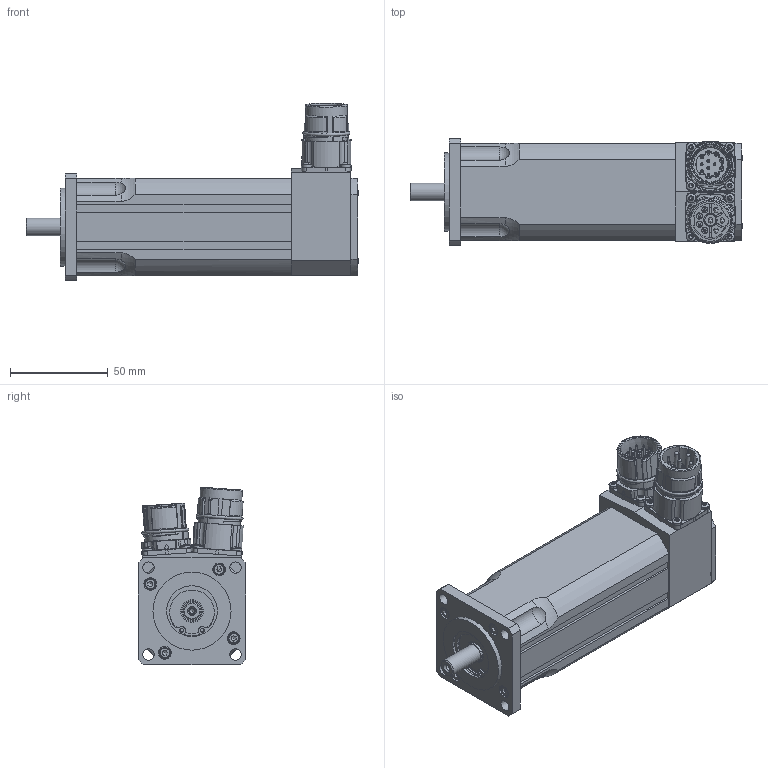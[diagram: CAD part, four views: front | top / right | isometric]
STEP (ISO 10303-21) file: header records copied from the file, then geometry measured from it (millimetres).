
FILE_DESCRIPTION(/* description */ (''),/* implementation_level */ '2;1');
FILE_NAME(/* name */ 'C:\PDF_output\N2057 00 B Z_0095_8P_12P.stp',/* time_stamp */ '2020-07-20T08:57:46+02:00',/* author */ ('oslejsek'),/* organization */ (''),/* preprocessor_version */ 'ST-DEVELOPER v18.1',/* originating_system */ 'Autodesk Inventor 2021',/* authorisation */ '');
FILE_SCHEMA (('AUTOMOTIVE_DESIGN { 1 0 10303 214 3 1 1 }'));
Products named in the file (5): N2057 00 B Z_0095_8P_12P; N2057 00 B Z_front; N2057 00 B Z_0095_rear_; 127331; 127344
Assembly tree (4 placements, depth 2):
  N2057 00 B Z_0095_8P_12P
    N2057 00 B Z_front
    N2057 00 B Z_0095_rear_
    127331
    127344
Bounding box: 170.2 x 55 x 90.99 mm (x, y, z)
Volume: 382217.6 mm3; surface area: 55171.5 mm2
Topology: 4 solids, 10 shells, 1699 faces, 4593 edges, 2937 vertices
Faces by surface type: cylinder 747, plane 495, bspline 165, torus 143, cone 106, sphere 43
Full cylindrical faces by diameter (mm): 1 x16, 1.18 x12, 1.3 x4, 2 x6, 2.013 x6, 2.15 x4, 2.208 x8, 2.4 x8, 2.459 x1, 2.5 x8, 2.7 x8, 2.8 x4, 3 x8, 3.2 x1, 3.3 x4, 5 x7, 5.5 x4, 5.6 x4, 5.8 x5, 6.5 x8, 6.8 x1, 9 x1, 10 x1, 10.2 x2, 17.1 x1, 17.4 x1, 17.7 x1, 19.8 x1, 20 x2, 21.15 x2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
Entity records: 65208 total; most frequent: CARTESIAN_POINT 20335, DIRECTION 9337, ORIENTED_EDGE 9090, EDGE_CURVE 4545, AXIS2_PLACEMENT_3D 3893, VERTEX_POINT 2933, CIRCLE 2231, EDGE_LOOP 1866
